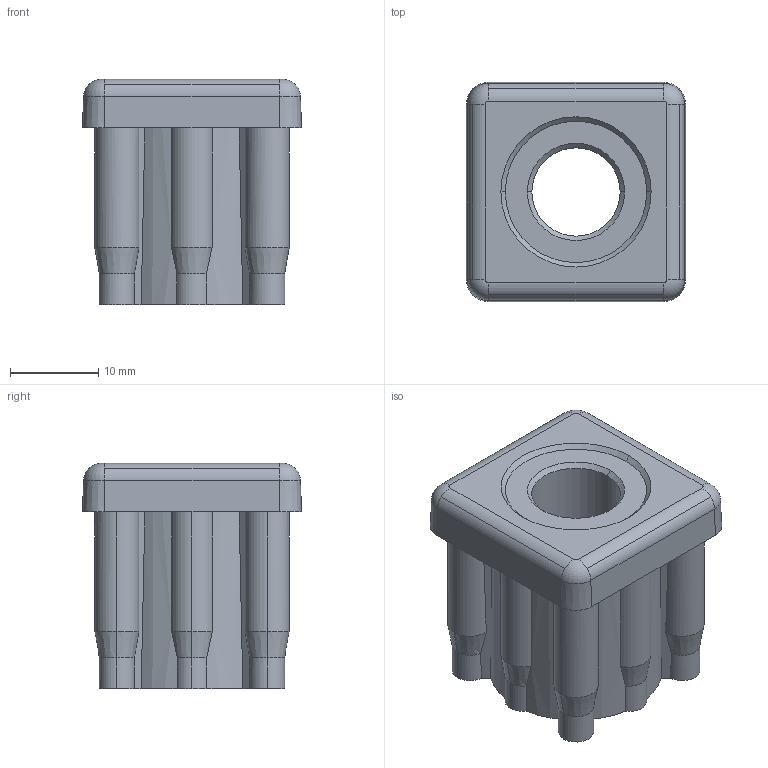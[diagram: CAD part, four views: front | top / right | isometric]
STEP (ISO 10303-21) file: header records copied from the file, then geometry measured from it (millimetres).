
FILE_DESCRIPTION (( 'STEP AP214' ), '1' );
FILE_NAME ('42006825210.STEP', '2020-02-25T17:32:57', ( '' ), ( '' ), 'SwSTEP 2.0', 'SolidWorks 2018', '' );
FILE_SCHEMA (( 'AUTOMOTIVE_DESIGN' ));
Length unit declared in the file: metre
Products named in the file (1): 42006825210
Bounding box: 24.8 x 24.8 x 25.5 mm (x, y, z)
Volume: 8269.4 mm3; surface area: 5557.1 mm2
Topology: 2 solids, 2 shells, 119 faces, 300 edges, 188 vertices
Faces by surface type: cylinder 62, cone 30, plane 19, torus 8
Entity records: 3641 total; most frequent: CARTESIAN_POINT 740, DIRECTION 640, ORIENTED_EDGE 600, EDGE_CURVE 300, AXIS2_PLACEMENT_3D 268, VERTEX_POINT 188, CIRCLE 148, EDGE_LOOP 126
